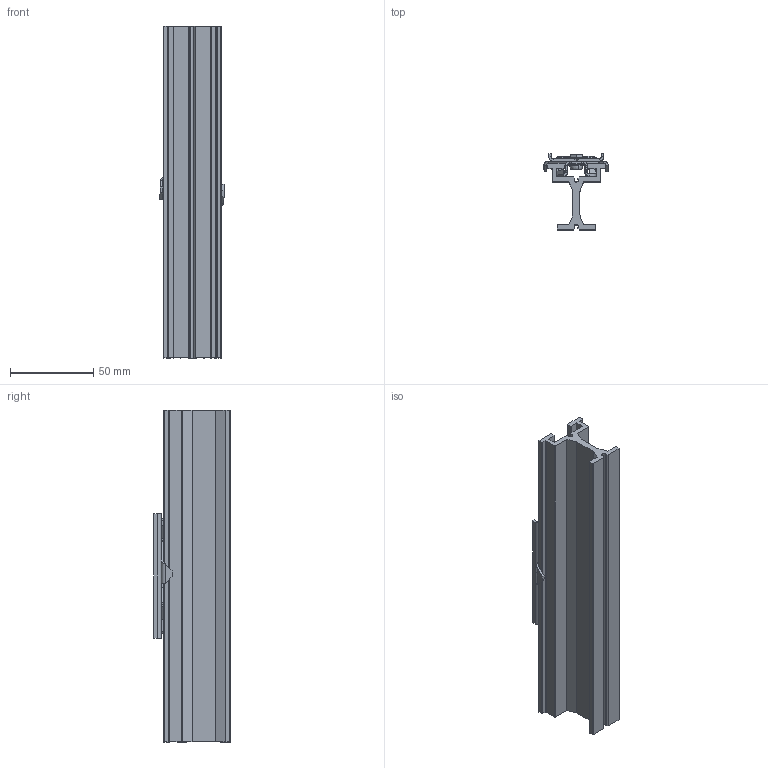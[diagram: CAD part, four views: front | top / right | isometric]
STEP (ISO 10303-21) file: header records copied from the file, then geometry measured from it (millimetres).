
FILE_DESCRIPTION (( 'STEP AP214' ), '1' );
FILE_NAME ('31158111_tr95_gt2.STEP', '2021-03-17T14:43:08', ( '' ), ( '' ), 'SwSTEP 2.0', 'SolidWorks 2019', '' );
FILE_SCHEMA (( 'AUTOMOTIVE_DESIGN' ));
Length unit declared in the file: millimetre
Products named in the file (8): 1000000320_M4x6; 1000000327_M4; 1000006857; 1000006855; Trumpt 95; 31158111_tr95_gt2; 1000000324_M4 = D4,3; 1000006847
Assembly tree (14 placements, depth 2):
  31158111_tr95_gt2
    1000006857
    1000006847  x2
    1000006855  x4
    1000000324_M4 = D4,3  x2
    1000000320_M4x6  x2
    1000000327_M4  x2
    Trumpt 95
Bounding box: 38.65 x 46 x 200 mm (x, y, z)
Volume: 79032.1 mm3; surface area: 56142.5 mm2
Topology: 14 solids, 14 shells, 936 faces, 2463 edges, 1574 vertices
Faces by surface type: plane 546, bspline 168, cylinder 152, cone 54, sphere 12, torus 4
Entity records: 27282 total; most frequent: CARTESIAN_POINT 8703, ORIENTED_EDGE 4116, DIRECTION 3166, EDGE_CURVE 2058, LINE 1456, VECTOR 1456, VERTEX_POINT 1334, AXIS2_PLACEMENT_3D 855
